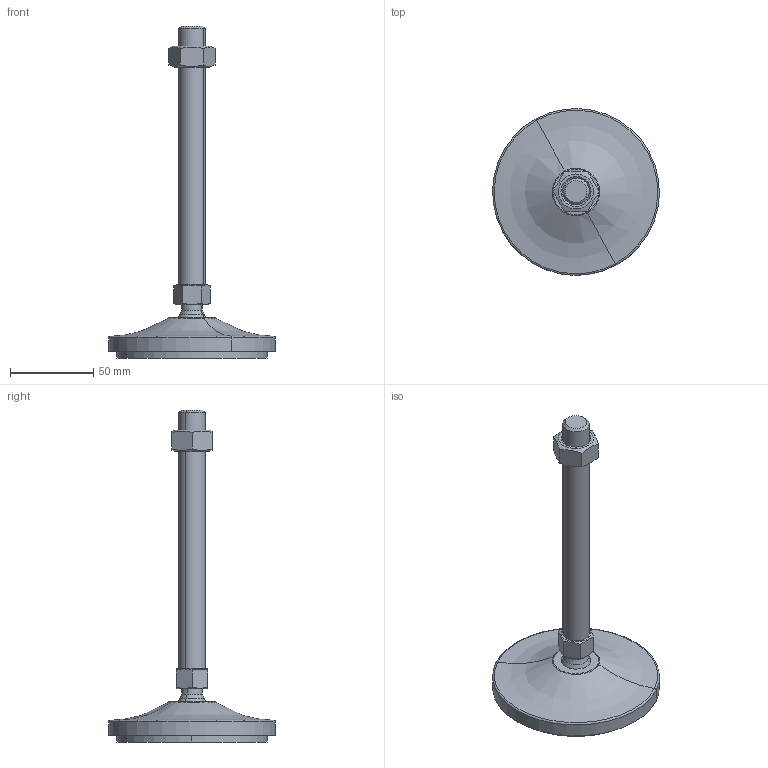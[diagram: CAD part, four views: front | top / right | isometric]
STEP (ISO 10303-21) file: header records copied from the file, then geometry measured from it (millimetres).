
FILE_DESCRIPTION(('CATIA V5 STEP Exchange'),'2;1');
FILE_NAME('C:\Users\ALI OZGUN\Desktop\alhan\saplama2\560101621AV.stp','2017-09-21T10:30:50+00:00',('none'),('none'),'CATIA Version 5 Release 21 GA (IN-10)','CATIA V5 STEP AP203','none');
FILE_SCHEMA(('CONFIG_CONTROL_DESIGN'));
Length unit declared in the file: millimetre
Products named in the file (1): 560101621AV
Bounding box: 99.97 x 99.97 x 199 mm (x, y, z)
Volume: 160145.1 mm3; surface area: 47911.3 mm2
Topology: 4 solids, 4 shells, 64 faces, 142 edges, 87 vertices
Faces by surface type: plane 22, cylinder 16, cone 16, torus 4, revolution 4, sphere 2
Entity records: 1936 total; most frequent: CARTESIAN_POINT 628, ORIENTED_EDGE 280, DIRECTION 197, EDGE_CURVE 140, AXIS2_PLACEMENT_3D 106, VERTEX_POINT 87, EDGE_LOOP 71, ADVANCED_FACE 64
